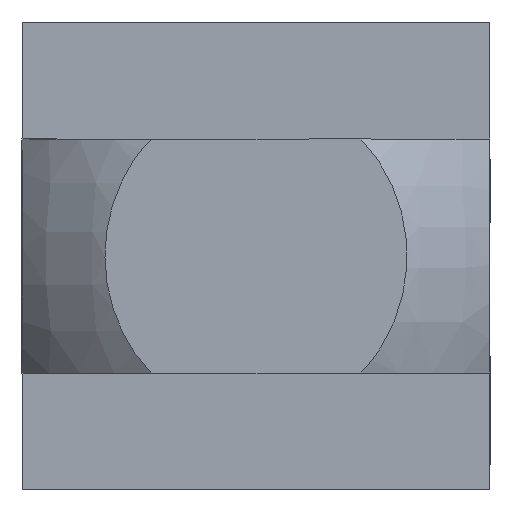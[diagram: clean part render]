
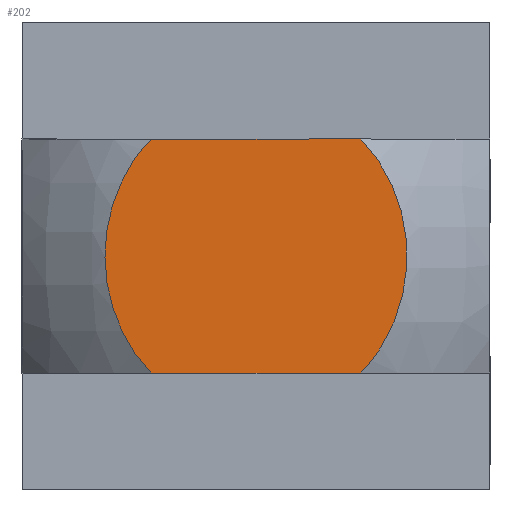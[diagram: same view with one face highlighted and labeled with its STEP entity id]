
A CAD part, left-side view. The second image highlights one B-rep face of the part: STEP entity #202.
In plain terms, the highlighted planar face has unit normal (-1, 0, 0).
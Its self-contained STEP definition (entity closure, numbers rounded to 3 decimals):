
#34 = VERTEX_POINT ( 'NONE', #346 ) ;
#35 = VERTEX_POINT ( 'NONE', #392 ) ;
#41 = EDGE_CURVE ( 'NONE', #35, #34, #366, .T. ) ;
#191 = ORIENTED_EDGE ( 'NONE', *, *, #41, .F. ) ;
#192 = EDGE_LOOP ( 'NONE', ( #191, #1089, #1092, #1096 ) ) ;
#202 = ADVANCED_FACE ( 'NONE', ( #676 ), #675, .T. ) ;
#346 = CARTESIAN_POINT ( 'NONE',  ( -31., -5.385, -6. ) ) ;
#361 = CARTESIAN_POINT ( 'NONE',  ( -31., -6.693, 4.235 ) ) ;
#362 = CARTESIAN_POINT ( 'NONE',  ( -31., -6.106, 5.164 ) ) ;
#363 = CARTESIAN_POINT ( 'NONE',  ( -31., -5.769, 5.598 ) ) ;
#364 = CARTESIAN_POINT ( 'NONE',  ( -31., -5.385, 6. ) ) ;
#366 = B_SPLINE_CURVE_WITH_KNOTS ( 'NONE', 3,
 ( #364, #363, #362, #361, #424, #423, #422, #421, #420, #419, #418, #417, #416, #415, #414, #413, #412, #411, #410, #409, #408, #407 ),
 .UNSPECIFIED., .F., .F.,
 ( 4, 2, 2, 2, 2, 2, 2, 2, 2, 2, 4 ),
 ( 0.019, 0.02, 0.022, 0.024, 0.024, 0.025, 0.027, 0.028, 0.029, 0.03, 0.032 ),
 .UNSPECIFIED. ) ;
#392 = CARTESIAN_POINT ( 'NONE',  ( -31., -5.385, 6. ) ) ;
#407 = CARTESIAN_POINT ( 'NONE',  ( -31., -5.385, -6. ) ) ;
#408 = CARTESIAN_POINT ( 'NONE',  ( -31., -5.763, -5.604 ) ) ;
#409 = CARTESIAN_POINT ( 'NONE',  ( -31., -6.1, -5.172 ) ) ;
#410 = CARTESIAN_POINT ( 'NONE',  ( -31., -6.544, -4.47 ) ) ;
#411 = CARTESIAN_POINT ( 'NONE',  ( -31., -6.681, -4.228 ) ) ;
#412 = CARTESIAN_POINT ( 'NONE',  ( -31., -6.929, -3.737 ) ) ;
#413 = CARTESIAN_POINT ( 'NONE',  ( -31., -7.04, -3.486 ) ) ;
#414 = CARTESIAN_POINT ( 'NONE',  ( -31., -7.339, -2.722 ) ) ;
#415 = CARTESIAN_POINT ( 'NONE',  ( -31., -7.491, -2.191 ) ) ;
#416 = CARTESIAN_POINT ( 'NONE',  ( -31., -7.695, -1.101 ) ) ;
#417 = CARTESIAN_POINT ( 'NONE',  ( -31., -7.746, -0.555 ) ) ;
#418 = CARTESIAN_POINT ( 'NONE',  ( -31., -7.746, 0.268 ) ) ;
#419 = CARTESIAN_POINT ( 'NONE',  ( -31., -7.734, 0.542 ) ) ;
#420 = CARTESIAN_POINT ( 'NONE',  ( -31., -7.683, 1.092 ) ) ;
#421 = CARTESIAN_POINT ( 'NONE',  ( -31., -7.645, 1.368 ) ) ;
#422 = CARTESIAN_POINT ( 'NONE',  ( -31., -7.493, 2.182 ) ) ;
#423 = CARTESIAN_POINT ( 'NONE',  ( -31., -7.343, 2.709 ) ) ;
#424 = CARTESIAN_POINT ( 'NONE',  ( -31., -6.944, 3.735 ) ) ;
#670 = DIRECTION ( 'NONE',  ( 0., 0., 1. ) ) ;
#671 = DIRECTION ( 'NONE',  ( -1., 0., 0. ) ) ;
#672 = CARTESIAN_POINT ( 'NONE',  ( -31., 12., -12. ) ) ;
#674 = AXIS2_PLACEMENT_3D ( 'NONE', #672, #671, #670 ) ;
#675 = PLANE ( 'NONE',  #674 ) ;
#676 = FACE_OUTER_BOUND ( 'NONE', #192, .T. ) ;
#933 = CARTESIAN_POINT ( 'NONE',  ( -31., 5.385, -6. ) ) ;
#969 = DIRECTION ( 'NONE',  ( 0., 1., 0. ) ) ;
#970 = VECTOR ( 'NONE', #969, 1000. ) ;
#971 = CARTESIAN_POINT ( 'NONE',  ( -31., 5.385, 6. ) ) ;
#972 = CARTESIAN_POINT ( 'NONE',  ( -31., 5.763, 5.604 ) ) ;
#973 = CARTESIAN_POINT ( 'NONE',  ( -31., 6.106, 5.163 ) ) ;
#974 = CARTESIAN_POINT ( 'NONE',  ( -31., 6.693, 4.235 ) ) ;
#975 = CARTESIAN_POINT ( 'NONE',  ( -31., 6.939, 3.746 ) ) ;
#976 = CARTESIAN_POINT ( 'NONE',  ( -31., 7.239, 2.977 ) ) ;
#977 = CARTESIAN_POINT ( 'NONE',  ( -31., 7.328, 2.713 ) ) ;
#978 = CARTESIAN_POINT ( 'NONE',  ( -31., 7.48, 2.183 ) ) ;
#979 = CARTESIAN_POINT ( 'NONE',  ( -31., 7.543, 1.916 ) ) ;
#980 = CARTESIAN_POINT ( 'NONE',  ( -31., 7.694, 1.108 ) ) ;
#981 = CARTESIAN_POINT ( 'NONE',  ( -31., 7.745, 0.562 ) ) ;
#982 = CARTESIAN_POINT ( 'NONE',  ( -31., 7.746, -0.547 ) ) ;
#983 = CARTESIAN_POINT ( 'NONE',  ( -31., 7.696, -1.097 ) ) ;
#984 = CARTESIAN_POINT ( 'NONE',  ( -31., 7.544, -1.912 ) ) ;
#985 = CARTESIAN_POINT ( 'NONE',  ( -31., 7.48, -2.183 ) ) ;
#986 = CARTESIAN_POINT ( 'NONE',  ( -31., 7.328, -2.713 ) ) ;
#987 = CARTESIAN_POINT ( 'NONE',  ( -31., 7.241, -2.973 ) ) ;
#988 = CARTESIAN_POINT ( 'NONE',  ( -31., 6.942, -3.739 ) ) ;
#989 = CARTESIAN_POINT ( 'NONE',  ( -31., 6.694, -4.233 ) ) ;
#990 = CARTESIAN_POINT ( 'NONE',  ( -31., -12., 6. ) ) ;
#991 = LINE ( 'NONE', #990, #970 ) ;
#996 = CARTESIAN_POINT ( 'NONE',  ( -31., 6.102, -5.169 ) ) ;
#997 = CARTESIAN_POINT ( 'NONE',  ( -31., 5.765, -5.603 ) ) ;
#998 = CARTESIAN_POINT ( 'NONE',  ( -31., 5.385, -6. ) ) ;
#999 = B_SPLINE_CURVE_WITH_KNOTS ( 'NONE', 3,
 ( #998, #997, #996, #989, #988, #987, #986, #985, #984, #983, #982, #981, #980, #979, #978, #977, #976, #975, #974, #973, #972, #971 ),
 .UNSPECIFIED., .F., .F.,
 ( 4, 2, 2, 2, 2, 2, 2, 2, 2, 2, 4 ),
 ( 0.044, 0.045, 0.047, 0.048, 0.049, 0.05, 0.052, 0.053, 0.054, 0.055, 0.057 ),
 .UNSPECIFIED. ) ;
#1012 = CARTESIAN_POINT ( 'NONE',  ( -31., 5.385, 6. ) ) ;
#1013 = DIRECTION ( 'NONE',  ( 0., 1., 0. ) ) ;
#1014 = VECTOR ( 'NONE', #1013, 1000. ) ;
#1015 = CARTESIAN_POINT ( 'NONE',  ( -31., -12., -6. ) ) ;
#1016 = LINE ( 'NONE', #1015, #1014 ) ;
#1079 = VERTEX_POINT ( 'NONE', #933 ) ;
#1082 = EDGE_CURVE ( 'NONE', #1079, #1093, #999, .T. ) ;
#1086 = EDGE_CURVE ( 'NONE', #35, #1093, #991, .T. ) ;
#1089 = ORIENTED_EDGE ( 'NONE', *, *, #1086, .T. ) ;
#1091 = EDGE_CURVE ( 'NONE', #34, #1079, #1016, .T. ) ;
#1092 = ORIENTED_EDGE ( 'NONE', *, *, #1082, .F. ) ;
#1093 = VERTEX_POINT ( 'NONE', #1012 ) ;
#1096 = ORIENTED_EDGE ( 'NONE', *, *, #1091, .F. ) ;
